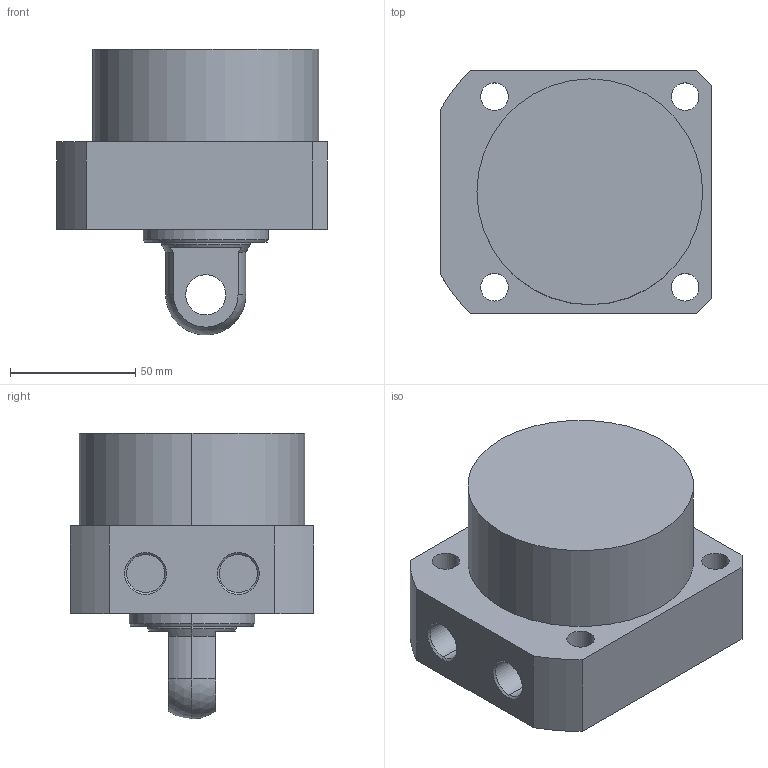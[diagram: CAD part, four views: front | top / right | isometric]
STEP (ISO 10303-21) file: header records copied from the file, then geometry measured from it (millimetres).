
FILE_DESCRIPTION (( 'STEP AP203' ), '1' );
FILE_NAME ('CLLR-090CP-(1-14).STEP', '2019-12-19T03:19:19', ( '' ), ( '' ), 'SwSTEP 2.0', 'SolidWorks 2015', '' );
FILE_SCHEMA (( 'CONFIG_CONTROL_DESIGN' ));
Length unit declared in the file: millimetre
Products named in the file (1): CLLR-090CP-(1-14)
Bounding box: 108 x 97 x 114 mm (x, y, z)
Volume: 597855.8 mm3; surface area: 55161.1 mm2
Topology: 1 solids, 1 shells, 57 faces, 135 edges, 87 vertices
Faces by surface type: cylinder 29, plane 18, cone 8, sphere 2
Entity records: 1770 total; most frequent: DIRECTION 319, CARTESIAN_POINT 292, ORIENTED_EDGE 270, EDGE_CURVE 135, AXIS2_PLACEMENT_3D 130, VERTEX_POINT 87, EDGE_LOOP 74, CIRCLE 72
